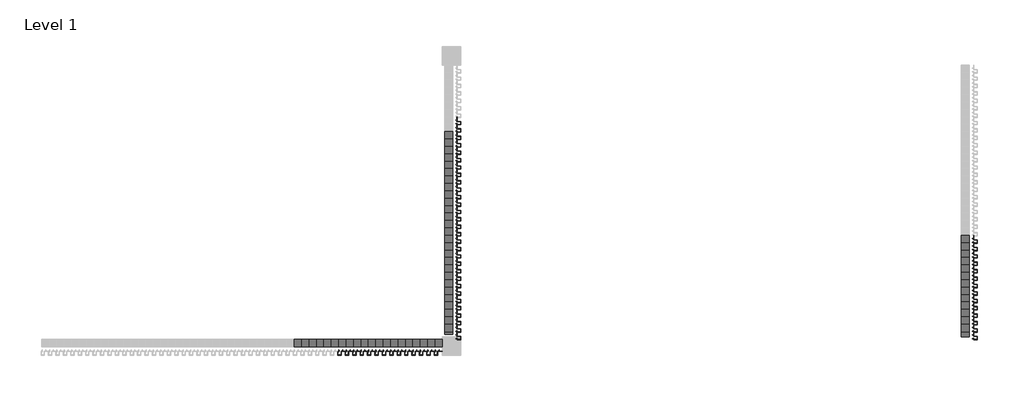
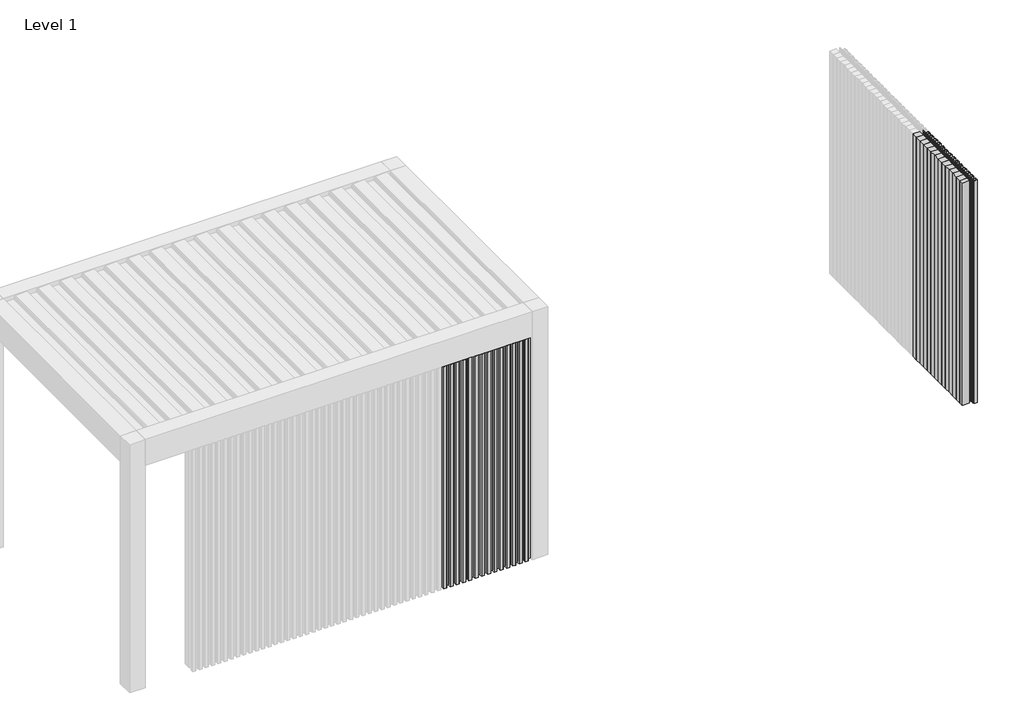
# One storey, part 5 of 69: 62 plates, 58 members.
"""IFC4 building model written with IfcOpenShell, lengths in millimetres."""

from ifc_helpers import new_model, si_unit, origin, origin_with_axes, place, context, project, spatial, polyline, outline, extrude, transform, mapped, element, save
from components import rectangular_mullion_72383e52, rectangular_mullion_f26adc31

model = new_model("IFC4")

# Units and contexts
model_context = context("Model", 3, world=origin())
ifc_project = project(units=[si_unit("LENGTHUNIT", "METRE", prefix="MILLI")], contexts=[model_context])

# Site, building, storey
site = spatial("IfcSite", under=ifc_project)
building = spatial("IfcBuilding", under=site)
storey = spatial("IfcBuildingStorey", under=building, Name="Level 1", Elevation=0.0)

# Members
placement = place(None, origin())
rectangular_mullion_shape = rectangular_mullion_72383e52(model_context)
element("IfcMember", 1, ObjectType="Rectangular Mullion : Renson_Linarte_LA-B30-01", at=placement, inside=storey, context=model_context, shape_type="MappedRepresentation", body=[
    mapped(rectangular_mullion_shape, transform((215057.0900207, 19268.8290758, 0.0), x_axis=(0.0, -1.0, 0.0), y_axis=(-1.0, 0.0, 0.0), z_axis=(0.0, 0.0, -1.0))),
])
element("IfcMember", 2, ObjectType="Rectangular Mullion : Renson_Linarte_LA-B30-01", at=placement, inside=storey, context=model_context, shape_type="MappedRepresentation", body=[
    mapped(rectangular_mullion_shape, transform((215057.0900207, 19328.8290758, 0.0), x_axis=(0.0, -1.0, 0.0), y_axis=(-1.0, 0.0, 0.0), z_axis=(0.0, 0.0, -1.0))),
])
element("IfcMember", 3, ObjectType="Rectangular Mullion : Renson_Linarte_LA-B30-01", at=placement, inside=storey, context=model_context, shape_type="MappedRepresentation", body=[
    mapped(rectangular_mullion_shape, transform((215057.0900207, 19388.8290758, 0.0), x_axis=(0.0, -1.0, 0.0), y_axis=(-1.0, 0.0, 0.0), z_axis=(0.0, 0.0, -1.0))),
])
element("IfcMember", 4, ObjectType="Rectangular Mullion : Renson_Linarte_LA-B30-01", at=placement, inside=storey, context=model_context, shape_type="MappedRepresentation", body=[
    mapped(rectangular_mullion_shape, transform((215057.0900207, 19448.8290758, 0.0), x_axis=(0.0, -1.0, 0.0), y_axis=(-1.0, 0.0, 0.0), z_axis=(0.0, 0.0, -1.0))),
])
element("IfcMember", 5, ObjectType="Rectangular Mullion : Renson_Linarte_LA-B30-01", at=placement, inside=storey, context=model_context, shape_type="MappedRepresentation", body=[
    mapped(rectangular_mullion_shape, transform((215057.0900207, 19508.8290758, 0.0), x_axis=(0.0, -1.0, 0.0), y_axis=(-1.0, 0.0, 0.0), z_axis=(0.0, 0.0, -1.0))),
])
element("IfcMember", 6, ObjectType="Rectangular Mullion : Renson_Linarte_LA-B30-01", at=placement, inside=storey, context=model_context, shape_type="MappedRepresentation", body=[
    mapped(rectangular_mullion_shape, transform((215057.0900207, 19568.8290758, 0.0), x_axis=(0.0, -1.0, 0.0), y_axis=(-1.0, 0.0, 0.0), z_axis=(0.0, 0.0, -1.0))),
])
element("IfcMember", 7, ObjectType="Rectangular Mullion : Renson_Linarte_LA-B30-01", at=placement, inside=storey, context=model_context, shape_type="MappedRepresentation", body=[
    mapped(rectangular_mullion_shape, transform((215057.0900207, 19628.8290758, 0.0), x_axis=(0.0, -1.0, 0.0), y_axis=(-1.0, 0.0, 0.0), z_axis=(0.0, 0.0, -1.0))),
])
element("IfcMember", 8, ObjectType="Rectangular Mullion : Renson_Linarte_LA-B30-01", at=placement, inside=storey, context=model_context, shape_type="MappedRepresentation", body=[
    mapped(rectangular_mullion_shape, transform((215057.0900207, 19688.8290758, 0.0), x_axis=(0.0, -1.0, 0.0), y_axis=(-1.0, 0.0, 0.0), z_axis=(0.0, 0.0, -1.0))),
])
element("IfcMember", 9, ObjectType="Rectangular Mullion : Renson_Linarte_LA-B30-01", at=placement, inside=storey, context=model_context, shape_type="MappedRepresentation", body=[
    mapped(rectangular_mullion_shape, transform((215057.0900207, 19748.8290758, 0.0), x_axis=(0.0, -1.0, 0.0), y_axis=(-1.0, 0.0, 0.0), z_axis=(0.0, 0.0, -1.0))),
])
element("IfcMember", 10, ObjectType="Rectangular Mullion : Renson_Linarte_LA-B30-01", at=placement, inside=storey, context=model_context, shape_type="MappedRepresentation", body=[
    mapped(rectangular_mullion_shape, transform((215057.0900207, 19808.8290758, 0.0), x_axis=(0.0, -1.0, 0.0), y_axis=(-1.0, 0.0, 0.0), z_axis=(0.0, 0.0, -1.0))),
])
element("IfcMember", 11, ObjectType="Rectangular Mullion : Renson_Linarte_LA-B30-01", at=placement, inside=storey, context=model_context, shape_type="MappedRepresentation", body=[
    mapped(rectangular_mullion_shape, transform((215057.0900207, 19868.8290758, 0.0), x_axis=(0.0, -1.0, 0.0), y_axis=(-1.0, 0.0, 0.0), z_axis=(0.0, 0.0, -1.0))),
])
element("IfcMember", 12, ObjectType="Rectangular Mullion : Renson_Linarte_LA-B30-01", at=placement, inside=storey, context=model_context, shape_type="MappedRepresentation", body=[
    mapped(rectangular_mullion_shape, transform((215057.0900207, 19928.8290758, 0.0), x_axis=(0.0, -1.0, 0.0), y_axis=(-1.0, 0.0, 0.0), z_axis=(0.0, 0.0, -1.0))),
])
element("IfcMember", 13, ObjectType="Rectangular Mullion : Renson_Linarte_LA-B30-01", at=placement, inside=storey, context=model_context, shape_type="MappedRepresentation", body=[
    mapped(rectangular_mullion_shape, transform((215057.0900207, 19988.8290758, 0.0), x_axis=(0.0, -1.0, 0.0), y_axis=(-1.0, 0.0, 0.0), z_axis=(0.0, 0.0, -1.0))),
])
element("IfcMember", 14, ObjectType="Rectangular Mullion : Renson_Linarte_LA-B30-01", at=placement, inside=storey, context=model_context, shape_type="MappedRepresentation", body=[
    mapped(rectangular_mullion_shape, transform((215057.0900207, 19208.8290758, 0.0), x_axis=(0.0, -1.0, 0.0), y_axis=(-1.0, 0.0, 0.0), z_axis=(0.0, 0.0, -1.0))),
])
element("IfcMember", 15, ObjectType="Rectangular Mullion : Renson_Linarte_LA-B30-01", at=placement, inside=storey, context=model_context, shape_type="MappedRepresentation", body=[
    mapped(rectangular_mullion_shape, transform((210877.4749426, 19268.8290758, 0.0), x_axis=(0.0, -1.0, 0.0), y_axis=(-1.0, 0.0, 0.0), z_axis=(0.0, 0.0, -1.0))),
])
element("IfcMember", 16, ObjectType="Rectangular Mullion : Renson_Linarte_LA-B30-01", at=placement, inside=storey, context=model_context, shape_type="MappedRepresentation", body=[
    mapped(rectangular_mullion_shape, transform((210877.4749426, 19328.8290758, 0.0), x_axis=(0.0, -1.0, 0.0), y_axis=(-1.0, 0.0, 0.0), z_axis=(0.0, 0.0, -1.0))),
])
element("IfcMember", 17, ObjectType="Rectangular Mullion : Renson_Linarte_LA-B30-01", at=placement, inside=storey, context=model_context, shape_type="MappedRepresentation", body=[
    mapped(rectangular_mullion_shape, transform((210877.4749426, 19388.8290758, 0.0), x_axis=(0.0, -1.0, 0.0), y_axis=(-1.0, 0.0, 0.0), z_axis=(0.0, 0.0, -1.0))),
])
element("IfcMember", 18, ObjectType="Rectangular Mullion : Renson_Linarte_LA-B30-01", at=placement, inside=storey, context=model_context, shape_type="MappedRepresentation", body=[
    mapped(rectangular_mullion_shape, transform((210877.4749426, 19448.8290758, 0.0), x_axis=(0.0, -1.0, 0.0), y_axis=(-1.0, 0.0, 0.0), z_axis=(0.0, 0.0, -1.0))),
])
element("IfcMember", 19, ObjectType="Rectangular Mullion : Renson_Linarte_LA-B30-01", at=placement, inside=storey, context=model_context, shape_type="MappedRepresentation", body=[
    mapped(rectangular_mullion_shape, transform((210877.4749426, 19508.8290758, 0.0), x_axis=(0.0, -1.0, 0.0), y_axis=(-1.0, 0.0, 0.0), z_axis=(0.0, 0.0, -1.0))),
])
element("IfcMember", 20, ObjectType="Rectangular Mullion : Renson_Linarte_LA-B30-01", at=placement, inside=storey, context=model_context, shape_type="MappedRepresentation", body=[
    mapped(rectangular_mullion_shape, transform((210877.4749426, 19568.8290758, 0.0), x_axis=(0.0, -1.0, 0.0), y_axis=(-1.0, 0.0, 0.0), z_axis=(0.0, 0.0, -1.0))),
])
element("IfcMember", 21, ObjectType="Rectangular Mullion : Renson_Linarte_LA-B30-01", at=placement, inside=storey, context=model_context, shape_type="MappedRepresentation", body=[
    mapped(rectangular_mullion_shape, transform((210877.4749426, 19628.8290758, 0.0), x_axis=(0.0, -1.0, 0.0), y_axis=(-1.0, 0.0, 0.0), z_axis=(0.0, 0.0, -1.0))),
])
element("IfcMember", 22, ObjectType="Rectangular Mullion : Renson_Linarte_LA-B30-01", at=placement, inside=storey, context=model_context, shape_type="MappedRepresentation", body=[
    mapped(rectangular_mullion_shape, transform((210877.4749426, 19688.8290758, 0.0), x_axis=(0.0, -1.0, 0.0), y_axis=(-1.0, 0.0, 0.0), z_axis=(0.0, 0.0, -1.0))),
])
element("IfcMember", 23, ObjectType="Rectangular Mullion : Renson_Linarte_LA-B30-01", at=placement, inside=storey, context=model_context, shape_type="MappedRepresentation", body=[
    mapped(rectangular_mullion_shape, transform((210877.4749426, 19748.8290758, 0.0), x_axis=(0.0, -1.0, 0.0), y_axis=(-1.0, 0.0, 0.0), z_axis=(0.0, 0.0, -1.0))),
])
element("IfcMember", 24, ObjectType="Rectangular Mullion : Renson_Linarte_LA-B30-01", at=placement, inside=storey, context=model_context, shape_type="MappedRepresentation", body=[
    mapped(rectangular_mullion_shape, transform((210877.4749426, 19808.8290758, 0.0), x_axis=(0.0, -1.0, 0.0), y_axis=(-1.0, 0.0, 0.0), z_axis=(0.0, 0.0, -1.0))),
])
element("IfcMember", 25, ObjectType="Rectangular Mullion : Renson_Linarte_LA-B30-01", at=placement, inside=storey, context=model_context, shape_type="MappedRepresentation", body=[
    mapped(rectangular_mullion_shape, transform((210877.4749426, 19868.8290758, 0.0), x_axis=(0.0, -1.0, 0.0), y_axis=(-1.0, 0.0, 0.0), z_axis=(0.0, 0.0, -1.0))),
])
element("IfcMember", 26, ObjectType="Rectangular Mullion : Renson_Linarte_LA-B30-01", at=placement, inside=storey, context=model_context, shape_type="MappedRepresentation", body=[
    mapped(rectangular_mullion_shape, transform((210877.4749426, 19928.8290758, 0.0), x_axis=(0.0, -1.0, 0.0), y_axis=(-1.0, 0.0, 0.0), z_axis=(0.0, 0.0, -1.0))),
])
element("IfcMember", 27, ObjectType="Rectangular Mullion : Renson_Linarte_LA-B30-01", at=placement, inside=storey, context=model_context, shape_type="MappedRepresentation", body=[
    mapped(rectangular_mullion_shape, transform((210877.4749426, 19988.8290758, 0.0), x_axis=(0.0, -1.0, 0.0), y_axis=(-1.0, 0.0, 0.0), z_axis=(0.0, 0.0, -1.0))),
])
element("IfcMember", 28, ObjectType="Rectangular Mullion : Renson_Linarte_LA-B30-01", at=placement, inside=storey, context=model_context, shape_type="MappedRepresentation", body=[
    mapped(rectangular_mullion_shape, transform((210877.4749426, 20048.8290758, 0.0), x_axis=(0.0, -1.0, 0.0), y_axis=(-1.0, 0.0, 0.0), z_axis=(0.0, 0.0, -1.0))),
])
element("IfcMember", 29, ObjectType="Rectangular Mullion : Renson_Linarte_LA-B30-01", at=placement, inside=storey, context=model_context, shape_type="MappedRepresentation", body=[
    mapped(rectangular_mullion_shape, transform((210877.4749426, 20108.8290758, 0.0), x_axis=(0.0, -1.0, 0.0), y_axis=(-1.0, 0.0, 0.0), z_axis=(0.0, 0.0, -1.0))),
])
element("IfcMember", 30, ObjectType="Rectangular Mullion : Renson_Linarte_LA-B30-01", at=placement, inside=storey, context=model_context, shape_type="MappedRepresentation", body=[
    mapped(rectangular_mullion_shape, transform((210877.4749426, 20168.8290758, 0.0), x_axis=(0.0, -1.0, 0.0), y_axis=(-1.0, 0.0, 0.0), z_axis=(0.0, 0.0, -1.0))),
])
element("IfcMember", 31, ObjectType="Rectangular Mullion : Renson_Linarte_LA-B30-01", at=placement, inside=storey, context=model_context, shape_type="MappedRepresentation", body=[
    mapped(rectangular_mullion_shape, transform((210877.4749426, 20228.8290758, 0.0), x_axis=(0.0, -1.0, 0.0), y_axis=(-1.0, 0.0, 0.0), z_axis=(0.0, 0.0, -1.0))),
])
element("IfcMember", 32, ObjectType="Rectangular Mullion : Renson_Linarte_LA-B30-01", at=placement, inside=storey, context=model_context, shape_type="MappedRepresentation", body=[
    mapped(rectangular_mullion_shape, transform((210877.4749426, 20288.8290758, 0.0), x_axis=(0.0, -1.0, 0.0), y_axis=(-1.0, 0.0, 0.0), z_axis=(0.0, 0.0, -1.0))),
])
element("IfcMember", 33, ObjectType="Rectangular Mullion : Renson_Linarte_LA-B30-01", at=placement, inside=storey, context=model_context, shape_type="MappedRepresentation", body=[
    mapped(rectangular_mullion_shape, transform((210877.4749426, 20348.8290758, 0.0), x_axis=(0.0, -1.0, 0.0), y_axis=(-1.0, 0.0, 0.0), z_axis=(0.0, 0.0, -1.0))),
])
element("IfcMember", 34, ObjectType="Rectangular Mullion : Renson_Linarte_LA-B30-01", at=placement, inside=storey, context=model_context, shape_type="MappedRepresentation", body=[
    mapped(rectangular_mullion_shape, transform((210877.4749426, 20408.8290758, 0.0), x_axis=(0.0, -1.0, 0.0), y_axis=(-1.0, 0.0, 0.0), z_axis=(0.0, 0.0, -1.0))),
])
element("IfcMember", 35, ObjectType="Rectangular Mullion : Renson_Linarte_LA-B30-01", at=placement, inside=storey, context=model_context, shape_type="MappedRepresentation", body=[
    mapped(rectangular_mullion_shape, transform((210877.4749426, 20468.8290758, 0.0), x_axis=(0.0, -1.0, 0.0), y_axis=(-1.0, 0.0, 0.0), z_axis=(0.0, 0.0, -1.0))),
])
element("IfcMember", 36, ObjectType="Rectangular Mullion : Renson_Linarte_LA-B30-01", at=placement, inside=storey, context=model_context, shape_type="MappedRepresentation", body=[
    mapped(rectangular_mullion_shape, transform((210877.4749426, 20528.8290758, 0.0), x_axis=(0.0, -1.0, 0.0), y_axis=(-1.0, 0.0, 0.0), z_axis=(0.0, 0.0, -1.0))),
])
element("IfcMember", 37, ObjectType="Rectangular Mullion : Renson_Linarte_LA-B30-01", at=placement, inside=storey, context=model_context, shape_type="MappedRepresentation", body=[
    mapped(rectangular_mullion_shape, transform((210877.4749426, 20588.8290758, 0.0), x_axis=(0.0, -1.0, 0.0), y_axis=(-1.0, 0.0, 0.0), z_axis=(0.0, 0.0, -1.0))),
])
element("IfcMember", 38, ObjectType="Rectangular Mullion : Renson_Linarte_LA-B30-01", at=placement, inside=storey, context=model_context, shape_type="MappedRepresentation", body=[
    mapped(rectangular_mullion_shape, transform((210877.4749426, 20648.8290758, 0.0), x_axis=(0.0, -1.0, 0.0), y_axis=(-1.0, 0.0, 0.0), z_axis=(0.0, 0.0, -1.0))),
])
element("IfcMember", 39, ObjectType="Rectangular Mullion : Renson_Linarte_LA-B30-01", at=placement, inside=storey, context=model_context, shape_type="MappedRepresentation", body=[
    mapped(rectangular_mullion_shape, transform((210877.4749426, 20708.8290758, 0.0), x_axis=(0.0, -1.0, 0.0), y_axis=(-1.0, 0.0, 0.0), z_axis=(0.0, 0.0, -1.0))),
])
element("IfcMember", 40, ObjectType="Rectangular Mullion : Renson_Linarte_LA-B30-01", at=placement, inside=storey, context=model_context, shape_type="MappedRepresentation", body=[
    mapped(rectangular_mullion_shape, transform((210877.4749426, 20768.8290758, 0.0), x_axis=(0.0, -1.0, 0.0), y_axis=(-1.0, 0.0, 0.0), z_axis=(0.0, 0.0, -1.0))),
])
element("IfcMember", 41, ObjectType="Rectangular Mullion : Renson_Linarte_LA-B30-01", at=placement, inside=storey, context=model_context, shape_type="MappedRepresentation", body=[
    mapped(rectangular_mullion_shape, transform((210877.4749426, 20828.8290758, 0.0), x_axis=(0.0, -1.0, 0.0), y_axis=(-1.0, 0.0, 0.0), z_axis=(0.0, 0.0, -1.0))),
])
element("IfcMember", 42, ObjectType="Rectangular Mullion : Renson_Linarte_LA-B30-01", at=placement, inside=storey, context=model_context, shape_type="MappedRepresentation", body=[
    mapped(rectangular_mullion_shape, transform((210877.4749426, 20888.8290758, 0.0), x_axis=(0.0, -1.0, 0.0), y_axis=(-1.0, 0.0, 0.0), z_axis=(0.0, 0.0, -1.0))),
])
element("IfcMember", 43, ObjectType="Rectangular Mullion : Renson_Linarte_LA-B30-01", at=placement, inside=storey, context=model_context, shape_type="MappedRepresentation", body=[
    mapped(rectangular_mullion_shape, transform((210877.4749426, 20948.8290758, 0.0), x_axis=(0.0, -1.0, 0.0), y_axis=(-1.0, 0.0, 0.0), z_axis=(0.0, 0.0, -1.0))),
])
element("IfcMember", 44, ObjectType="Rectangular Mullion : Renson_Linarte_LA-B30-01", at=placement, inside=storey, context=model_context, shape_type="MappedRepresentation", body=[
    mapped(rectangular_mullion_shape, transform((210877.4749426, 19208.8290758, 0.0), x_axis=(0.0, -1.0, 0.0), y_axis=(-1.0, 0.0, 0.0), z_axis=(0.0, 0.0, -1.0))),
])
element("IfcMember", 45, ObjectType="Rectangular Mullion : Renson_Linarte_LA-B30-01", at=placement, inside=storey, context=model_context, shape_type="MappedRepresentation", body=[
    mapped(rectangular_mullion_shape, transform((210045.5749423, 19116.9290761, 0.0), x_axis=(-1.0, 0.0, 0.0), y_axis=(0.0, 1.0, 0.0), z_axis=(0.0, 0.0, -1.0))),
])
element("IfcMember", 46, ObjectType="Rectangular Mullion : Renson_Linarte_LA-B30-01", at=placement, inside=storey, context=model_context, shape_type="MappedRepresentation", body=[
    mapped(rectangular_mullion_shape, transform((210105.5749423, 19116.9290761, 0.0), x_axis=(-1.0, 0.0, 0.0), y_axis=(0.0, 1.0, 0.0), z_axis=(0.0, 0.0, -1.0))),
])
element("IfcMember", 47, ObjectType="Rectangular Mullion : Renson_Linarte_LA-B30-01", at=placement, inside=storey, context=model_context, shape_type="MappedRepresentation", body=[
    mapped(rectangular_mullion_shape, transform((210165.5749423, 19116.9290761, 0.0), x_axis=(-1.0, 0.0, 0.0), y_axis=(0.0, 1.0, 0.0), z_axis=(0.0, 0.0, -1.0))),
])
element("IfcMember", 48, ObjectType="Rectangular Mullion : Renson_Linarte_LA-B30-01", at=placement, inside=storey, context=model_context, shape_type="MappedRepresentation", body=[
    mapped(rectangular_mullion_shape, transform((210225.5749423, 19116.9290761, 0.0), x_axis=(-1.0, 0.0, 0.0), y_axis=(0.0, 1.0, 0.0), z_axis=(0.0, 0.0, -1.0))),
])
element("IfcMember", 49, ObjectType="Rectangular Mullion : Renson_Linarte_LA-B30-01", at=placement, inside=storey, context=model_context, shape_type="MappedRepresentation", body=[
    mapped(rectangular_mullion_shape, transform((210285.5749423, 19116.9290761, 0.0), x_axis=(-1.0, 0.0, 0.0), y_axis=(0.0, 1.0, 0.0), z_axis=(0.0, 0.0, -1.0))),
])
element("IfcMember", 50, ObjectType="Rectangular Mullion : Renson_Linarte_LA-B30-01", at=placement, inside=storey, context=model_context, shape_type="MappedRepresentation", body=[
    mapped(rectangular_mullion_shape, transform((210345.5749423, 19116.9290761, 0.0), x_axis=(-1.0, 0.0, 0.0), y_axis=(0.0, 1.0, 0.0), z_axis=(0.0, 0.0, -1.0))),
])
element("IfcMember", 51, ObjectType="Rectangular Mullion : Renson_Linarte_LA-B30-01", at=placement, inside=storey, context=model_context, shape_type="MappedRepresentation", body=[
    mapped(rectangular_mullion_shape, transform((210405.5749423, 19116.9290761, 0.0), x_axis=(-1.0, 0.0, 0.0), y_axis=(0.0, 1.0, 0.0), z_axis=(0.0, 0.0, -1.0))),
])
element("IfcMember", 52, ObjectType="Rectangular Mullion : Renson_Linarte_LA-B30-01", at=placement, inside=storey, context=model_context, shape_type="MappedRepresentation", body=[
    mapped(rectangular_mullion_shape, transform((210465.5749423, 19116.9290761, 0.0), x_axis=(-1.0, 0.0, 0.0), y_axis=(0.0, 1.0, 0.0), z_axis=(0.0, 0.0, -1.0))),
])
element("IfcMember", 53, ObjectType="Rectangular Mullion : Renson_Linarte_LA-B30-01", at=placement, inside=storey, context=model_context, shape_type="MappedRepresentation", body=[
    mapped(rectangular_mullion_shape, transform((210525.5749423, 19116.9290761, 0.0), x_axis=(-1.0, 0.0, 0.0), y_axis=(0.0, 1.0, 0.0), z_axis=(0.0, 0.0, -1.0))),
])
element("IfcMember", 54, ObjectType="Rectangular Mullion : Renson_Linarte_LA-B30-01", at=placement, inside=storey, context=model_context, shape_type="MappedRepresentation", body=[
    mapped(rectangular_mullion_shape, transform((210585.5749423, 19116.9290761, 0.0), x_axis=(-1.0, 0.0, 0.0), y_axis=(0.0, 1.0, 0.0), z_axis=(0.0, 0.0, -1.0))),
])
element("IfcMember", 55, ObjectType="Rectangular Mullion : Renson_Linarte_LA-B30-01", at=placement, inside=storey, context=model_context, shape_type="MappedRepresentation", body=[
    mapped(rectangular_mullion_shape, transform((210645.5749423, 19116.9290761, 0.0), x_axis=(-1.0, 0.0, 0.0), y_axis=(0.0, 1.0, 0.0), z_axis=(0.0, 0.0, -1.0))),
])
element("IfcMember", 56, ObjectType="Rectangular Mullion : Renson_Linarte_LA-B30-01", at=placement, inside=storey, context=model_context, shape_type="MappedRepresentation", body=[
    mapped(rectangular_mullion_shape, transform((210705.5749423, 19116.9290761, 0.0), x_axis=(-1.0, 0.0, 0.0), y_axis=(0.0, 1.0, 0.0), z_axis=(0.0, 0.0, -1.0))),
])
element("IfcMember", 57, ObjectType="Rectangular Mullion : Renson_Linarte_LA-B30-01", at=placement, inside=storey, context=model_context, shape_type="MappedRepresentation", body=[
    mapped(rectangular_mullion_shape, transform((210765.5749423, 19116.9290761, 0.0), x_axis=(-1.0, 0.0, 0.0), y_axis=(0.0, 1.0, 0.0), z_axis=(0.0, 0.0, -1.0))),
])
rectangular_mullion_2_shape = rectangular_mullion_f26adc31(model_context)
element("IfcMember", 58, ObjectType="Rectangular Mullion : Renson_Linarte_LA-B30-01", at=placement, inside=storey, context=model_context, shape_type="MappedRepresentation", body=[
    mapped(rectangular_mullion_2_shape, transform((210825.5749426, 19116.9290761, 2250.0), x_axis=(1.0, 0.0, 0.0), y_axis=(0.0, 1.0, 0.0), z_axis=(0.0, 0.0, 1.0))),
])

# Plates
element("IfcPlate", 59, ObjectType="Base - 64mm", at=placement, inside=storey, context=model_context, shape_type="SweptSolid", body=[
    extrude(outline(polyline([(215025.0900207, 19208.8290758), (215025.0900207, 19268.8290758), (215089.0900207, 19268.8290758), (215089.0900207, 19208.8290758), (215025.0900207, 19208.8290758)])), origin_with_axes(), (0.0, 0.0, 1.0), 2250.0),
])
element("IfcPlate", 60, ObjectType="Base - 64mm", at=placement, inside=storey, context=model_context, shape_type="SweptSolid", body=[
    extrude(outline(polyline([(215025.0900207, 19268.8290758), (215025.0900207, 19328.8290758), (215089.0900207, 19328.8290758), (215089.0900207, 19268.8290758), (215025.0900207, 19268.8290758)])), origin_with_axes(), (0.0, 0.0, 1.0), 2250.0),
])
element("IfcPlate", 61, ObjectType="Base - 64mm", at=placement, inside=storey, context=model_context, shape_type="SweptSolid", body=[
    extrude(outline(polyline([(215025.0900207, 19328.8290758), (215025.0900207, 19388.8290758), (215089.0900207, 19388.8290758), (215089.0900207, 19328.8290758), (215025.0900207, 19328.8290758)])), origin_with_axes(), (0.0, 0.0, 1.0), 2250.0),
])
element("IfcPlate", 62, ObjectType="Base - 64mm", at=placement, inside=storey, context=model_context, shape_type="SweptSolid", body=[
    extrude(outline(polyline([(215025.0900207, 19388.8290758), (215025.0900207, 19448.8290758), (215089.0900207, 19448.8290758), (215089.0900207, 19388.8290758), (215025.0900207, 19388.8290758)])), origin_with_axes(), (0.0, 0.0, 1.0), 2250.0),
])
element("IfcPlate", 63, ObjectType="Base - 64mm", at=placement, inside=storey, context=model_context, shape_type="SweptSolid", body=[
    extrude(outline(polyline([(215025.0900207, 19448.8290758), (215025.0900207, 19508.8290758), (215089.0900207, 19508.8290758), (215089.0900207, 19448.8290758), (215025.0900207, 19448.8290758)])), origin_with_axes(), (0.0, 0.0, 1.0), 2250.0),
])
element("IfcPlate", 64, ObjectType="Base - 64mm", at=placement, inside=storey, context=model_context, shape_type="SweptSolid", body=[
    extrude(outline(polyline([(215025.0900207, 19508.8290758), (215025.0900207, 19568.8290758), (215089.0900207, 19568.8290758), (215089.0900207, 19508.8290758), (215025.0900207, 19508.8290758)])), origin_with_axes(), (0.0, 0.0, 1.0), 2250.0),
])
element("IfcPlate", 65, ObjectType="Base - 64mm", at=placement, inside=storey, context=model_context, shape_type="SweptSolid", body=[
    extrude(outline(polyline([(215025.0900207, 19568.8290758), (215025.0900207, 19628.8290758), (215089.0900207, 19628.8290758), (215089.0900207, 19568.8290758), (215025.0900207, 19568.8290758)])), origin_with_axes(), (0.0, 0.0, 1.0), 2250.0),
])
element("IfcPlate", 66, ObjectType="Base - 64mm", at=placement, inside=storey, context=model_context, shape_type="SweptSolid", body=[
    extrude(outline(polyline([(215025.0900207, 19628.8290758), (215025.0900207, 19688.8290758), (215089.0900207, 19688.8290758), (215089.0900207, 19628.8290758), (215025.0900207, 19628.8290758)])), origin_with_axes(), (0.0, 0.0, 1.0), 2250.0),
])
element("IfcPlate", 67, ObjectType="Base - 64mm", at=placement, inside=storey, context=model_context, shape_type="SweptSolid", body=[
    extrude(outline(polyline([(215025.0900207, 19688.8290758), (215025.0900207, 19748.8290758), (215089.0900207, 19748.8290758), (215089.0900207, 19688.8290758), (215025.0900207, 19688.8290758)])), origin_with_axes(), (0.0, 0.0, 1.0), 2250.0),
])
element("IfcPlate", 68, ObjectType="Base - 64mm", at=placement, inside=storey, context=model_context, shape_type="SweptSolid", body=[
    extrude(outline(polyline([(215025.0900207, 19748.8290758), (215025.0900207, 19808.8290758), (215089.0900207, 19808.8290758), (215089.0900207, 19748.8290758), (215025.0900207, 19748.8290758)])), origin_with_axes(), (0.0, 0.0, 1.0), 2250.0),
])
element("IfcPlate", 69, ObjectType="Base - 64mm", at=placement, inside=storey, context=model_context, shape_type="SweptSolid", body=[
    extrude(outline(polyline([(215025.0900207, 19808.8290758), (215025.0900207, 19868.8290758), (215089.0900207, 19868.8290758), (215089.0900207, 19808.8290758), (215025.0900207, 19808.8290758)])), origin_with_axes(), (0.0, 0.0, 1.0), 2250.0),
])
element("IfcPlate", 70, ObjectType="Base - 64mm", at=placement, inside=storey, context=model_context, shape_type="SweptSolid", body=[
    extrude(outline(polyline([(215025.0900207, 19868.8290758), (215025.0900207, 19928.8290758), (215089.0900207, 19928.8290758), (215089.0900207, 19868.8290758), (215025.0900207, 19868.8290758)])), origin_with_axes(), (0.0, 0.0, 1.0), 2250.0),
])
element("IfcPlate", 71, ObjectType="Base - 64mm", at=placement, inside=storey, context=model_context, shape_type="SweptSolid", body=[
    extrude(outline(polyline([(215025.0900207, 19928.8290758), (215025.0900207, 19988.8290758), (215089.0900207, 19988.8290758), (215089.0900207, 19928.8290758), (215025.0900207, 19928.8290758)])), origin_with_axes(), (0.0, 0.0, 1.0), 2250.0),
])
element("IfcPlate", 72, ObjectType="Base - 64mm", at=placement, inside=storey, context=model_context, shape_type="SweptSolid", body=[
    extrude(outline(polyline([(215025.0900207, 19168.8290761), (215025.0900207, 19208.8290758), (215089.0900207, 19208.8290758), (215089.0900207, 19168.8290761), (215025.0900207, 19168.8290761)])), origin_with_axes(), (0.0, 0.0, 1.0), 2250.0),
])
element("IfcPlate", 73, ObjectType="Base - 64mm", at=placement, inside=storey, context=model_context, shape_type="SweptSolid", body=[
    extrude(outline(polyline([(210845.4749426, 19208.8290758), (210845.4749426, 19268.8290758), (210909.4749426, 19268.8290758), (210909.4749426, 19208.8290758), (210845.4749426, 19208.8290758)])), origin_with_axes(), (0.0, 0.0, 1.0), 2250.0),
])
element("IfcPlate", 74, ObjectType="Base - 64mm", at=placement, inside=storey, context=model_context, shape_type="SweptSolid", body=[
    extrude(outline(polyline([(210845.4749426, 19268.8290758), (210845.4749426, 19328.8290758), (210909.4749426, 19328.8290758), (210909.4749426, 19268.8290758), (210845.4749426, 19268.8290758)])), origin_with_axes(), (0.0, 0.0, 1.0), 2250.0),
])
element("IfcPlate", 75, ObjectType="Base - 64mm", at=placement, inside=storey, context=model_context, shape_type="SweptSolid", body=[
    extrude(outline(polyline([(210845.4749426, 19328.8290758), (210845.4749426, 19388.8290758), (210909.4749426, 19388.8290758), (210909.4749426, 19328.8290758), (210845.4749426, 19328.8290758)])), origin_with_axes(), (0.0, 0.0, 1.0), 2250.0),
])
element("IfcPlate", 76, ObjectType="Base - 64mm", at=placement, inside=storey, context=model_context, shape_type="SweptSolid", body=[
    extrude(outline(polyline([(210845.4749426, 19388.8290758), (210845.4749426, 19448.8290758), (210909.4749426, 19448.8290758), (210909.4749426, 19388.8290758), (210845.4749426, 19388.8290758)])), origin_with_axes(), (0.0, 0.0, 1.0), 2250.0),
])
element("IfcPlate", 77, ObjectType="Base - 64mm", at=placement, inside=storey, context=model_context, shape_type="SweptSolid", body=[
    extrude(outline(polyline([(210845.4749426, 19448.8290758), (210845.4749426, 19508.8290758), (210909.4749426, 19508.8290758), (210909.4749426, 19448.8290758), (210845.4749426, 19448.8290758)])), origin_with_axes(), (0.0, 0.0, 1.0), 2250.0),
])
element("IfcPlate", 78, ObjectType="Base - 64mm", at=placement, inside=storey, context=model_context, shape_type="SweptSolid", body=[
    extrude(outline(polyline([(210845.4749426, 19508.8290758), (210845.4749426, 19568.8290758), (210909.4749426, 19568.8290758), (210909.4749426, 19508.8290758), (210845.4749426, 19508.8290758)])), origin_with_axes(), (0.0, 0.0, 1.0), 2250.0),
])
element("IfcPlate", 79, ObjectType="Base - 64mm", at=placement, inside=storey, context=model_context, shape_type="SweptSolid", body=[
    extrude(outline(polyline([(210845.4749426, 19568.8290758), (210845.4749426, 19628.8290758), (210909.4749426, 19628.8290758), (210909.4749426, 19568.8290758), (210845.4749426, 19568.8290758)])), origin_with_axes(), (0.0, 0.0, 1.0), 2250.0),
])
element("IfcPlate", 80, ObjectType="Base - 64mm", at=placement, inside=storey, context=model_context, shape_type="SweptSolid", body=[
    extrude(outline(polyline([(210845.4749426, 19628.8290758), (210845.4749426, 19688.8290758), (210909.4749426, 19688.8290758), (210909.4749426, 19628.8290758), (210845.4749426, 19628.8290758)])), origin_with_axes(), (0.0, 0.0, 1.0), 2250.0),
])
element("IfcPlate", 81, ObjectType="Base - 64mm", at=placement, inside=storey, context=model_context, shape_type="SweptSolid", body=[
    extrude(outline(polyline([(210845.4749426, 19688.8290758), (210845.4749426, 19748.8290758), (210909.4749426, 19748.8290758), (210909.4749426, 19688.8290758), (210845.4749426, 19688.8290758)])), origin_with_axes(), (0.0, 0.0, 1.0), 2250.0),
])
element("IfcPlate", 82, ObjectType="Base - 64mm", at=placement, inside=storey, context=model_context, shape_type="SweptSolid", body=[
    extrude(outline(polyline([(210845.4749426, 19748.8290758), (210845.4749426, 19808.8290758), (210909.4749426, 19808.8290758), (210909.4749426, 19748.8290758), (210845.4749426, 19748.8290758)])), origin_with_axes(), (0.0, 0.0, 1.0), 2250.0),
])
element("IfcPlate", 83, ObjectType="Base - 64mm", at=placement, inside=storey, context=model_context, shape_type="SweptSolid", body=[
    extrude(outline(polyline([(210845.4749426, 19808.8290758), (210845.4749426, 19868.8290758), (210909.4749426, 19868.8290758), (210909.4749426, 19808.8290758), (210845.4749426, 19808.8290758)])), origin_with_axes(), (0.0, 0.0, 1.0), 2250.0),
])
element("IfcPlate", 84, ObjectType="Base - 64mm", at=placement, inside=storey, context=model_context, shape_type="SweptSolid", body=[
    extrude(outline(polyline([(210845.4749426, 19868.8290758), (210845.4749426, 19928.8290758), (210909.4749426, 19928.8290758), (210909.4749426, 19868.8290758), (210845.4749426, 19868.8290758)])), origin_with_axes(), (0.0, 0.0, 1.0), 2250.0),
])
element("IfcPlate", 85, ObjectType="Base - 64mm", at=placement, inside=storey, context=model_context, shape_type="SweptSolid", body=[
    extrude(outline(polyline([(210845.4749426, 19928.8290758), (210845.4749426, 19988.8290758), (210909.4749426, 19988.8290758), (210909.4749426, 19928.8290758), (210845.4749426, 19928.8290758)])), origin_with_axes(), (0.0, 0.0, 1.0), 2250.0),
])
element("IfcPlate", 86, ObjectType="Base - 64mm", at=placement, inside=storey, context=model_context, shape_type="SweptSolid", body=[
    extrude(outline(polyline([(210845.4749426, 19988.8290758), (210845.4749426, 20048.8290758), (210909.4749426, 20048.8290758), (210909.4749426, 19988.8290758), (210845.4749426, 19988.8290758)])), origin_with_axes(), (0.0, 0.0, 1.0), 2250.0),
])
element("IfcPlate", 87, ObjectType="Base - 64mm", at=placement, inside=storey, context=model_context, shape_type="SweptSolid", body=[
    extrude(outline(polyline([(210845.4749426, 20048.8290758), (210845.4749426, 20108.8290758), (210909.4749426, 20108.8290758), (210909.4749426, 20048.8290758), (210845.4749426, 20048.8290758)])), origin_with_axes(), (0.0, 0.0, 1.0), 2250.0),
])
element("IfcPlate", 88, ObjectType="Base - 64mm", at=placement, inside=storey, context=model_context, shape_type="SweptSolid", body=[
    extrude(outline(polyline([(210845.4749426, 20108.8290758), (210845.4749426, 20168.8290758), (210909.4749426, 20168.8290758), (210909.4749426, 20108.8290758), (210845.4749426, 20108.8290758)])), origin_with_axes(), (0.0, 0.0, 1.0), 2250.0),
])
element("IfcPlate", 89, ObjectType="Base - 64mm", at=placement, inside=storey, context=model_context, shape_type="SweptSolid", body=[
    extrude(outline(polyline([(210845.4749426, 20168.8290758), (210845.4749426, 20228.8290758), (210909.4749426, 20228.8290758), (210909.4749426, 20168.8290758), (210845.4749426, 20168.8290758)])), origin_with_axes(), (0.0, 0.0, 1.0), 2250.0),
])
element("IfcPlate", 90, ObjectType="Base - 64mm", at=placement, inside=storey, context=model_context, shape_type="SweptSolid", body=[
    extrude(outline(polyline([(210845.4749426, 20228.8290758), (210845.4749426, 20288.8290758), (210909.4749426, 20288.8290758), (210909.4749426, 20228.8290758), (210845.4749426, 20228.8290758)])), origin_with_axes(), (0.0, 0.0, 1.0), 2250.0),
])
element("IfcPlate", 91, ObjectType="Base - 64mm", at=placement, inside=storey, context=model_context, shape_type="SweptSolid", body=[
    extrude(outline(polyline([(210845.4749426, 20288.8290758), (210845.4749426, 20348.8290758), (210909.4749426, 20348.8290758), (210909.4749426, 20288.8290758), (210845.4749426, 20288.8290758)])), origin_with_axes(), (0.0, 0.0, 1.0), 2250.0),
])
element("IfcPlate", 92, ObjectType="Base - 64mm", at=placement, inside=storey, context=model_context, shape_type="SweptSolid", body=[
    extrude(outline(polyline([(210845.4749426, 20348.8290758), (210845.4749426, 20408.8290758), (210909.4749426, 20408.8290758), (210909.4749426, 20348.8290758), (210845.4749426, 20348.8290758)])), origin_with_axes(), (0.0, 0.0, 1.0), 2250.0),
])
element("IfcPlate", 93, ObjectType="Base - 64mm", at=placement, inside=storey, context=model_context, shape_type="SweptSolid", body=[
    extrude(outline(polyline([(210845.4749426, 20408.8290758), (210845.4749426, 20468.8290758), (210909.4749426, 20468.8290758), (210909.4749426, 20408.8290758), (210845.4749426, 20408.8290758)])), origin_with_axes(), (0.0, 0.0, 1.0), 2250.0),
])
element("IfcPlate", 94, ObjectType="Base - 64mm", at=placement, inside=storey, context=model_context, shape_type="SweptSolid", body=[
    extrude(outline(polyline([(210845.4749426, 20468.8290758), (210845.4749426, 20528.8290758), (210909.4749426, 20528.8290758), (210909.4749426, 20468.8290758), (210845.4749426, 20468.8290758)])), origin_with_axes(), (0.0, 0.0, 1.0), 2250.0),
])
element("IfcPlate", 95, ObjectType="Base - 64mm", at=placement, inside=storey, context=model_context, shape_type="SweptSolid", body=[
    extrude(outline(polyline([(210845.4749426, 20528.8290758), (210845.4749426, 20588.8290758), (210909.4749426, 20588.8290758), (210909.4749426, 20528.8290758), (210845.4749426, 20528.8290758)])), origin_with_axes(), (0.0, 0.0, 1.0), 2250.0),
])
element("IfcPlate", 96, ObjectType="Base - 64mm", at=placement, inside=storey, context=model_context, shape_type="SweptSolid", body=[
    extrude(outline(polyline([(210845.4749426, 20588.8290758), (210845.4749426, 20648.8290758), (210909.4749426, 20648.8290758), (210909.4749426, 20588.8290758), (210845.4749426, 20588.8290758)])), origin_with_axes(), (0.0, 0.0, 1.0), 2250.0),
])
element("IfcPlate", 97, ObjectType="Base - 64mm", at=placement, inside=storey, context=model_context, shape_type="SweptSolid", body=[
    extrude(outline(polyline([(210845.4749426, 20648.8290758), (210845.4749426, 20708.8290758), (210909.4749426, 20708.8290758), (210909.4749426, 20648.8290758), (210845.4749426, 20648.8290758)])), origin_with_axes(), (0.0, 0.0, 1.0), 2250.0),
])
element("IfcPlate", 98, ObjectType="Base - 64mm", at=placement, inside=storey, context=model_context, shape_type="SweptSolid", body=[
    extrude(outline(polyline([(210845.4749426, 20708.8290758), (210845.4749426, 20768.8290758), (210909.4749426, 20768.8290758), (210909.4749426, 20708.8290758), (210845.4749426, 20708.8290758)])), origin_with_axes(), (0.0, 0.0, 1.0), 2250.0),
])
element("IfcPlate", 99, ObjectType="Base - 64mm", at=placement, inside=storey, context=model_context, shape_type="SweptSolid", body=[
    extrude(outline(polyline([(210845.4749426, 20768.8290758), (210845.4749426, 20828.8290758), (210909.4749426, 20828.8290758), (210909.4749426, 20768.8290758), (210845.4749426, 20768.8290758)])), origin_with_axes(), (0.0, 0.0, 1.0), 2250.0),
])
element("IfcPlate", 100, ObjectType="Base - 64mm", at=placement, inside=storey, context=model_context, shape_type="SweptSolid", body=[
    extrude(outline(polyline([(210845.4749426, 19188.8290761), (210845.4749426, 19208.8290758), (210909.4749426, 19208.8290758), (210909.4749426, 19188.8290761), (210845.4749426, 19188.8290761)])), origin_with_axes(), (0.0, 0.0, 1.0), 2250.0),
])
element("IfcPlate", 101, ObjectType="Base - 64mm", at=placement, inside=storey, context=model_context, shape_type="SweptSolid", body=[
    extrude(outline(polyline([(209625.5749423, 19148.9290761), (209685.5749423, 19148.9290761), (209685.5749423, 19084.9290761), (209625.5749423, 19084.9290761), (209625.5749423, 19148.9290761)])), origin_with_axes(), (0.0, 0.0, 1.0), 2250.0),
])
element("IfcPlate", 102, ObjectType="Base - 64mm", at=placement, inside=storey, context=model_context, shape_type="SweptSolid", body=[
    extrude(outline(polyline([(209685.5749423, 19148.9290761), (209745.5749423, 19148.9290761), (209745.5749423, 19084.9290761), (209685.5749423, 19084.9290761), (209685.5749423, 19148.9290761)])), origin_with_axes(), (0.0, 0.0, 1.0), 2250.0),
])
element("IfcPlate", 103, ObjectType="Base - 64mm", at=placement, inside=storey, context=model_context, shape_type="SweptSolid", body=[
    extrude(outline(polyline([(209745.5749423, 19148.9290761), (209805.5749423, 19148.9290761), (209805.5749423, 19084.9290761), (209745.5749423, 19084.9290761), (209745.5749423, 19148.9290761)])), origin_with_axes(), (0.0, 0.0, 1.0), 2250.0),
])
element("IfcPlate", 104, ObjectType="Base - 64mm", at=placement, inside=storey, context=model_context, shape_type="SweptSolid", body=[
    extrude(outline(polyline([(209805.5749423, 19148.9290761), (209865.5749423, 19148.9290761), (209865.5749423, 19084.9290761), (209805.5749423, 19084.9290761), (209805.5749423, 19148.9290761)])), origin_with_axes(), (0.0, 0.0, 1.0), 2250.0),
])
element("IfcPlate", 105, ObjectType="Base - 64mm", at=placement, inside=storey, context=model_context, shape_type="SweptSolid", body=[
    extrude(outline(polyline([(209865.5749423, 19148.9290761), (209925.5749423, 19148.9290761), (209925.5749423, 19084.9290761), (209865.5749423, 19084.9290761), (209865.5749423, 19148.9290761)])), origin_with_axes(), (0.0, 0.0, 1.0), 2250.0),
])
element("IfcPlate", 106, ObjectType="Base - 64mm", at=placement, inside=storey, context=model_context, shape_type="SweptSolid", body=[
    extrude(outline(polyline([(209925.5749423, 19148.9290761), (209985.5749423, 19148.9290761), (209985.5749423, 19084.9290761), (209925.5749423, 19084.9290761), (209925.5749423, 19148.9290761)])), origin_with_axes(), (0.0, 0.0, 1.0), 2250.0),
])
element("IfcPlate", 107, ObjectType="Base - 64mm", at=placement, inside=storey, context=model_context, shape_type="SweptSolid", body=[
    extrude(outline(polyline([(209985.5749423, 19148.9290761), (210045.5749423, 19148.9290761), (210045.5749423, 19084.9290761), (209985.5749423, 19084.9290761), (209985.5749423, 19148.9290761)])), origin_with_axes(), (0.0, 0.0, 1.0), 2250.0),
])
element("IfcPlate", 108, ObjectType="Base - 64mm", at=placement, inside=storey, context=model_context, shape_type="SweptSolid", body=[
    extrude(outline(polyline([(210045.5749423, 19148.9290761), (210105.5749423, 19148.9290761), (210105.5749423, 19084.9290761), (210045.5749423, 19084.9290761), (210045.5749423, 19148.9290761)])), origin_with_axes(), (0.0, 0.0, 1.0), 2250.0),
])
element("IfcPlate", 109, ObjectType="Base - 64mm", at=placement, inside=storey, context=model_context, shape_type="SweptSolid", body=[
    extrude(outline(polyline([(210105.5749423, 19148.9290761), (210165.5749423, 19148.9290761), (210165.5749423, 19084.9290761), (210105.5749423, 19084.9290761), (210105.5749423, 19148.9290761)])), origin_with_axes(), (0.0, 0.0, 1.0), 2250.0),
])
element("IfcPlate", 110, ObjectType="Base - 64mm", at=placement, inside=storey, context=model_context, shape_type="SweptSolid", body=[
    extrude(outline(polyline([(210165.5749423, 19148.9290761), (210225.5749423, 19148.9290761), (210225.5749423, 19084.9290761), (210165.5749423, 19084.9290761), (210165.5749423, 19148.9290761)])), origin_with_axes(), (0.0, 0.0, 1.0), 2250.0),
])
element("IfcPlate", 111, ObjectType="Base - 64mm", at=placement, inside=storey, context=model_context, shape_type="SweptSolid", body=[
    extrude(outline(polyline([(210225.5749423, 19148.9290761), (210285.5749423, 19148.9290761), (210285.5749423, 19084.9290761), (210225.5749423, 19084.9290761), (210225.5749423, 19148.9290761)])), origin_with_axes(), (0.0, 0.0, 1.0), 2250.0),
])
element("IfcPlate", 112, ObjectType="Base - 64mm", at=placement, inside=storey, context=model_context, shape_type="SweptSolid", body=[
    extrude(outline(polyline([(210285.5749423, 19148.9290761), (210345.5749423, 19148.9290761), (210345.5749423, 19084.9290761), (210285.5749423, 19084.9290761), (210285.5749423, 19148.9290761)])), origin_with_axes(), (0.0, 0.0, 1.0), 2250.0),
])
element("IfcPlate", 113, ObjectType="Base - 64mm", at=placement, inside=storey, context=model_context, shape_type="SweptSolid", body=[
    extrude(outline(polyline([(210345.5749423, 19148.9290761), (210405.5749423, 19148.9290761), (210405.5749423, 19084.9290761), (210345.5749423, 19084.9290761), (210345.5749423, 19148.9290761)])), origin_with_axes(), (0.0, 0.0, 1.0), 2250.0),
])
element("IfcPlate", 114, ObjectType="Base - 64mm", at=placement, inside=storey, context=model_context, shape_type="SweptSolid", body=[
    extrude(outline(polyline([(210405.5749423, 19148.9290761), (210465.5749423, 19148.9290761), (210465.5749423, 19084.9290761), (210405.5749423, 19084.9290761), (210405.5749423, 19148.9290761)])), origin_with_axes(), (0.0, 0.0, 1.0), 2250.0),
])
element("IfcPlate", 115, ObjectType="Base - 64mm", at=placement, inside=storey, context=model_context, shape_type="SweptSolid", body=[
    extrude(outline(polyline([(210465.5749423, 19148.9290761), (210525.5749423, 19148.9290761), (210525.5749423, 19084.9290761), (210465.5749423, 19084.9290761), (210465.5749423, 19148.9290761)])), origin_with_axes(), (0.0, 0.0, 1.0), 2250.0),
])
element("IfcPlate", 116, ObjectType="Base - 64mm", at=placement, inside=storey, context=model_context, shape_type="SweptSolid", body=[
    extrude(outline(polyline([(210525.5749423, 19148.9290761), (210585.5749423, 19148.9290761), (210585.5749423, 19084.9290761), (210525.5749423, 19084.9290761), (210525.5749423, 19148.9290761)])), origin_with_axes(), (0.0, 0.0, 1.0), 2250.0),
])
element("IfcPlate", 117, ObjectType="Base - 64mm", at=placement, inside=storey, context=model_context, shape_type="SweptSolid", body=[
    extrude(outline(polyline([(210585.5749423, 19148.9290761), (210645.5749423, 19148.9290761), (210645.5749423, 19084.9290761), (210585.5749423, 19084.9290761), (210585.5749423, 19148.9290761)])), origin_with_axes(), (0.0, 0.0, 1.0), 2250.0),
])
element("IfcPlate", 118, ObjectType="Base - 64mm", at=placement, inside=storey, context=model_context, shape_type="SweptSolid", body=[
    extrude(outline(polyline([(210645.5749423, 19148.9290761), (210705.5749423, 19148.9290761), (210705.5749423, 19084.9290761), (210645.5749423, 19084.9290761), (210645.5749423, 19148.9290761)])), origin_with_axes(), (0.0, 0.0, 1.0), 2250.0),
])
element("IfcPlate", 119, ObjectType="Base - 64mm", at=placement, inside=storey, context=model_context, shape_type="SweptSolid", body=[
    extrude(outline(polyline([(210705.5749423, 19148.9290761), (210765.5749423, 19148.9290761), (210765.5749423, 19084.9290761), (210705.5749423, 19084.9290761), (210705.5749423, 19148.9290761)])), origin_with_axes(), (0.0, 0.0, 1.0), 2250.0),
])
element("IfcPlate", 120, ObjectType="Base - 64mm", at=placement, inside=storey, context=model_context, shape_type="SweptSolid", body=[
    extrude(outline(polyline([(210765.5749423, 19148.9290761), (210825.5749426, 19148.9290761), (210825.5749426, 19084.9290761), (210765.5749423, 19084.9290761), (210765.5749423, 19148.9290761)])), origin_with_axes(), (0.0, 0.0, 1.0), 2250.0),
])

save(model, "model.ifc")
